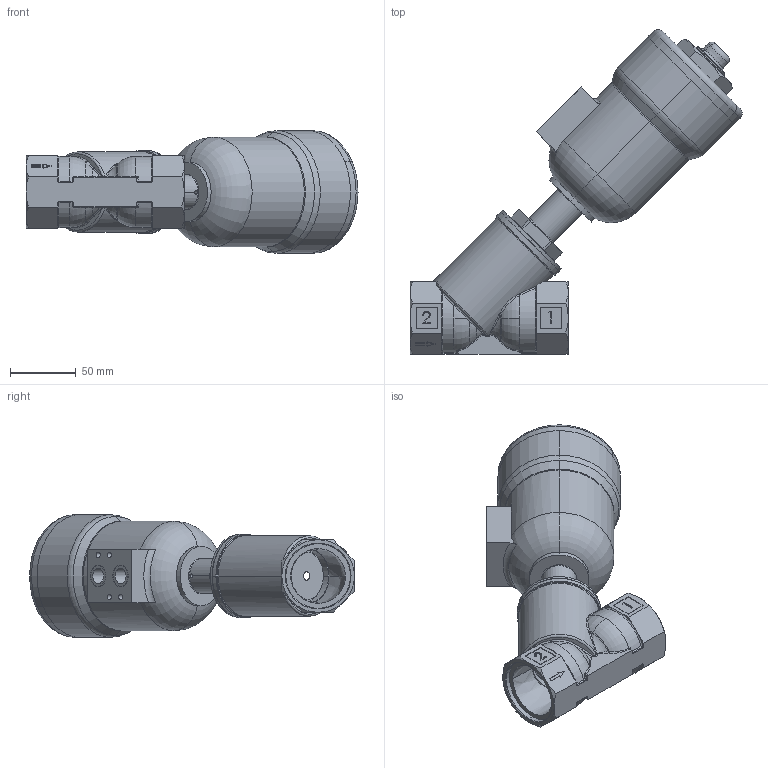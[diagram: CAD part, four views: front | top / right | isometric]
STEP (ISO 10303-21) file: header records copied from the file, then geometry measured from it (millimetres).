
FILE_DESCRIPTION (( 'STEP AP203' ), '1' );
FILE_NAME ('PCIPFM_040_2_4.STEP', '2018-03-22T11:47:44', ( 'user' ), ( '' ), 'SwSTEP 2.0', 'SolidWorks 2013', '' );
FILE_SCHEMA (( 'CONFIG_CONTROL_DESIGN' ));
Length unit declared in the file: millimetre
Products named in the file (1): PCIPFM_040_2_4
Bounding box: 251.8 x 246.3 x 93 mm (x, y, z)
Surface area: 117387.4 mm2 (no closed solid volume)
Topology: 0 solids, 12 shells, 399 faces, 1067 edges, 670 vertices
Faces by surface type: plane 144, cylinder 90, torus 56, bspline 54, cone 45, sphere 10
Entity records: 15677 total; most frequent: CARTESIAN_POINT 6109, ORIENTED_EDGE 1940, DIRECTION 1932, EDGE_CURVE 1065, AXIS2_PLACEMENT_3D 745, VERTEX_POINT 670, VECTOR 442, LINE 442
